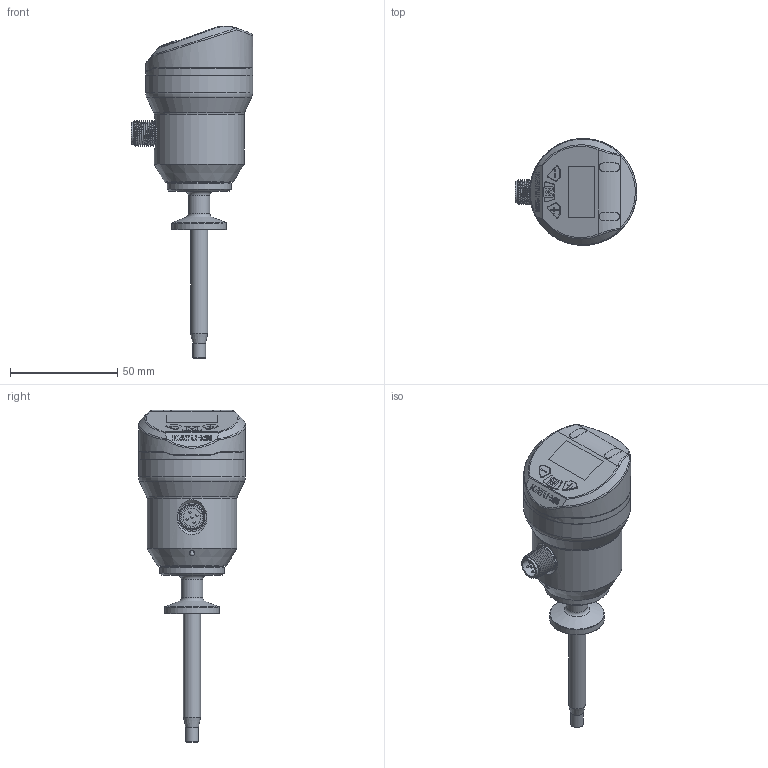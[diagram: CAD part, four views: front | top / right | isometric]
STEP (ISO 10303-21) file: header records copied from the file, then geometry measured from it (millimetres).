
FILE_DESCRIPTION( (''), '2;1');
FILE_NAME( 'QEKE_H25_L60_tri-clamp.step', '2026-06-25T11:46:36+08:00', (''), (''), '', '', '');
FILE_SCHEMA (('AP203_CONFIGURATION_CONTROLLED_3D_DESIGN_OF_MECHANICAL_PARTS_AND_ASSEMBLIES_MIM_LF { 1 0 10303 403 2 1 2}'));
Length unit declared in the file: millimetre
Products named in the file (1): QEKE H25_L60_tri-clamp
Bounding box: 56.7 x 50 x 155.09 mm (x, y, z)
Volume: 92196.3 mm3; surface area: 34259.5 mm2
Topology: 9 solids, 9 shells, 559 faces, 1401 edges, 904 vertices
Faces by surface type: plane 302, cylinder 130, bspline 43, cone 38, torus 35, sphere 11
Full cylindrical faces by diameter (mm): 1 x10, 2.5 x1, 2.7 x5, 3.1 x1, 3.5 x2, 6 x1, 6.8 x1, 8 x1, 8.4 x1, 9.7 x1, 9.8 x1, 10 x1, 10.1 x1, 11 x1, 11.6 x1, 12 x1, 23 x3, 25.4 x1, 26.1 x5, 30 x1, 42 x1, 48 x1, 50 x3
Entity records: 20099 total; most frequent: CARTESIAN_POINT 6607, DIRECTION 2536, ORIENTED_EDGE 2526, EDGE_CURVE 1263, AXIS2_PLACEMENT_3D 904, VERTEX_POINT 857, LINE 728, VECTOR 728
